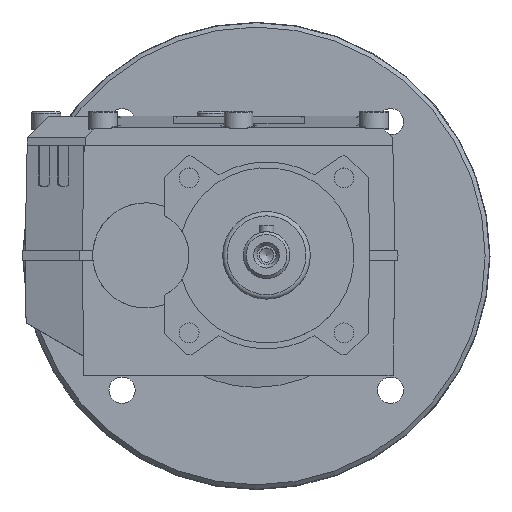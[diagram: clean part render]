
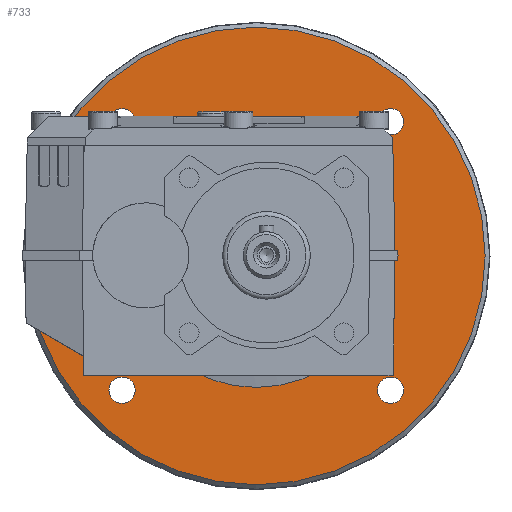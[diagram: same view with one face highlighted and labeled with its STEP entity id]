
A CAD part, top view. The second image highlights one B-rep face of the part: STEP entity #733.
In plain terms, the highlighted planar face has unit normal (0, 0, 1).
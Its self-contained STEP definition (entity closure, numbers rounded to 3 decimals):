
#733 = ADVANCED_FACE( '', ( #1750, #1751, #1752, #1753, #1754, #1755 ), #1756, .F. );
#1750 = FACE_OUTER_BOUND( '', #3089, .T. );
#1751 = FACE_BOUND( '', #3090, .T. );
#1752 = FACE_BOUND( '', #3091, .T. );
#1753 = FACE_BOUND( '', #3092, .T. );
#1754 = FACE_BOUND( '', #3093, .T. );
#1755 = FACE_BOUND( '', #3094, .T. );
#1756 = PLANE( '', #3095 );
#3089 = EDGE_LOOP( '', ( #5290 ) );
#3090 = EDGE_LOOP( '', ( #5291 ) );
#3091 = EDGE_LOOP( '', ( #5292 ) );
#3092 = EDGE_LOOP( '', ( #5293 ) );
#3093 = EDGE_LOOP( '', ( #5294 ) );
#3094 = EDGE_LOOP( '', ( #5295 ) );
#3095 = AXIS2_PLACEMENT_3D( '', #5296, #5297, #5298 );
#5290 = ORIENTED_EDGE( '', *, *, #8092, .T. );
#5291 = ORIENTED_EDGE( '', *, *, #7816, .T. );
#5292 = ORIENTED_EDGE( '', *, *, #8093, .T. );
#5293 = ORIENTED_EDGE( '', *, *, #8094, .T. );
#5294 = ORIENTED_EDGE( '', *, *, #8095, .T. );
#5295 = ORIENTED_EDGE( '', *, *, #7367, .F. );
#5296 = CARTESIAN_POINT( '', ( -3.5, 78.352, -111.7 ) );
#5297 = DIRECTION( '', ( 0., 0., -1. ) );
#5298 = DIRECTION( '', ( 1., 0., 0. ) );
#7367 = EDGE_CURVE( '', #8705, #8705, #8706, .T. );
#7816 = EDGE_CURVE( '', #9480, #9480, #9481, .T. );
#8092 = EDGE_CURVE( '', #9896, #9896, #9897, .T. );
#8093 = EDGE_CURVE( '', #9898, #9898, #9899, .T. );
#8094 = EDGE_CURVE( '', #9900, #9900, #9901, .T. );
#8095 = EDGE_CURVE( '', #9902, #9902, #9903, .T. );
#8705 = VERTEX_POINT( '', #10671 );
#8706 = CIRCLE( '', #10672, 45. );
#9480 = VERTEX_POINT( '', #11817 );
#9481 = CIRCLE( '', #11818, 4.5 );
#9896 = VERTEX_POINT( '', #12419 );
#9897 = CIRCLE( '', #12420, 78.352 );
#9898 = VERTEX_POINT( '', #12421 );
#9899 = CIRCLE( '', #12422, 4.5 );
#9900 = VERTEX_POINT( '', #12423 );
#9901 = CIRCLE( '', #12424, 4.5 );
#9902 = VERTEX_POINT( '', #12425 );
#9903 = CIRCLE( '', #12426, 4.5 );
#10671 = CARTESIAN_POINT( '', ( -3.5, -45., -111.7 ) );
#10672 = AXIS2_PLACEMENT_3D( '', #13372, #13373, #13374 );
#11817 = CARTESIAN_POINT( '', ( -49.462, 50.462, -111.7 ) );
#11818 = AXIS2_PLACEMENT_3D( '', #13994, #13995, #13996 );
#12419 = CARTESIAN_POINT( '', ( -3.5, -78.352, -111.7 ) );
#12420 = AXIS2_PLACEMENT_3D( '', #14317, #14318, #14319 );
#12421 = CARTESIAN_POINT( '', ( -49.462, -41.462, -111.7 ) );
#12422 = AXIS2_PLACEMENT_3D( '', #14320, #14321, #14322 );
#12423 = CARTESIAN_POINT( '', ( 42.462, -41.462, -111.7 ) );
#12424 = AXIS2_PLACEMENT_3D( '', #14323, #14324, #14325 );
#12425 = CARTESIAN_POINT( '', ( 42.462, 50.462, -111.7 ) );
#12426 = AXIS2_PLACEMENT_3D( '', #14326, #14327, #14328 );
#13372 = CARTESIAN_POINT( '', ( -3.5, 0., -111.7 ) );
#13373 = DIRECTION( '', ( 0., 0., 1. ) );
#13374 = DIRECTION( '', ( 0., -1., 0. ) );
#13994 = CARTESIAN_POINT( '', ( -49.462, 45.962, -111.7 ) );
#13995 = DIRECTION( '', ( 0., 0., -1. ) );
#13996 = DIRECTION( '', ( 0., 1., 0. ) );
#14317 = CARTESIAN_POINT( '', ( -3.5, 0., -111.7 ) );
#14318 = DIRECTION( '', ( 0., 0., 1. ) );
#14319 = DIRECTION( '', ( 0., -1., 0. ) );
#14320 = CARTESIAN_POINT( '', ( -49.462, -45.962, -111.7 ) );
#14321 = DIRECTION( '', ( 0., 0., -1. ) );
#14322 = DIRECTION( '', ( 0., 1., 0. ) );
#14323 = CARTESIAN_POINT( '', ( 42.462, -45.962, -111.7 ) );
#14324 = DIRECTION( '', ( 0., 0., -1. ) );
#14325 = DIRECTION( '', ( 0., 1., 0. ) );
#14326 = CARTESIAN_POINT( '', ( 42.462, 45.962, -111.7 ) );
#14327 = DIRECTION( '', ( 0., 0., -1. ) );
#14328 = DIRECTION( '', ( 0., 1., 0. ) );
